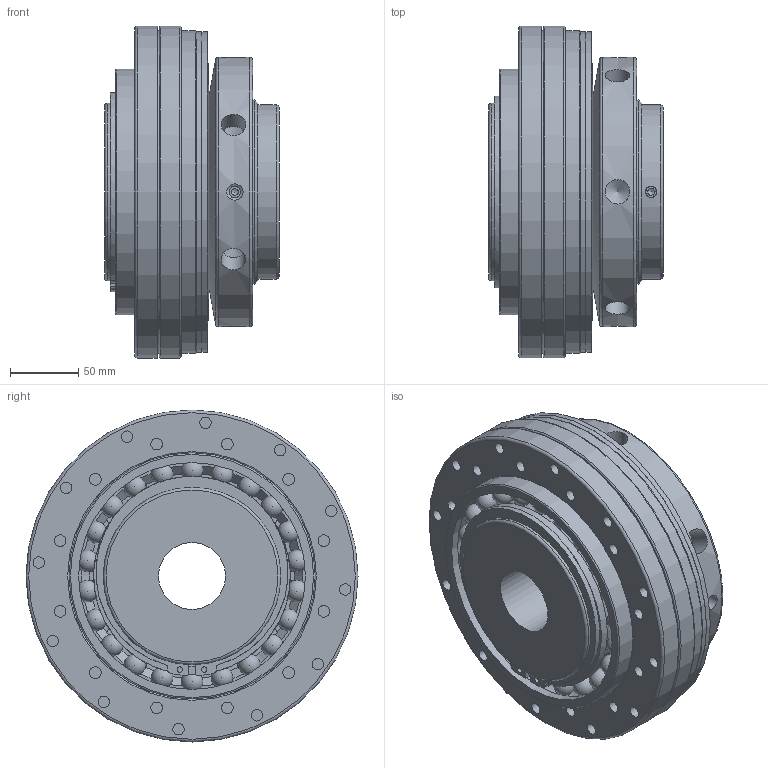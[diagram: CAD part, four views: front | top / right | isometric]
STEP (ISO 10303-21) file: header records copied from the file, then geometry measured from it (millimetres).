
FILE_DESCRIPTION(/* description */ ('Unknown'),/* implementation_level */ '2;1');
FILE_NAME(/* name */ 'SKW 6000',/* time_stamp */ '2018-01-30T13:39:19+01:00',/* author */ ('Unknown'),/* organization */ ('Unknown'),/* preprocessor_version */ 'ST-DEVELOPER v16.7',/* originating_system */ 'DEX',/* authorisation */ $);
FILE_SCHEMA (('AUTOMOTIVE_DESIGN {1 0 10303 214 3 1 1}'));
Length unit declared in the file: millimetre
Products named in the file (1): SKW 6000
Bounding box: 128 x 243 x 243 mm (x, y, z)
Volume: 3551628.5 mm3; surface area: 385413.6 mm2
Topology: 24 solids, 25 shells, 304 faces, 692 edges, 436 vertices
Faces by surface type: plane 127, cylinder 89, cone 46, sphere 22, torus 20
Full cylindrical faces by diameter (mm): 4 x2, 8 x12, 8.376 x16, 8.5 x14, 12 x2, 18 x6, 49 x1, 126 x1, 128 x1, 129.8 x1, 130 x2, 130.1 x1, 135 x2, 136 x1, 144 x2, 150 x1, 165 x1, 166 x2, 180 x2, 197 x1, 234.614 x2, 236 x2, 236.5 x2, 243 x2
Entity records: 7170 total; most frequent: CARTESIAN_POINT 1357, DIRECTION 1263, ORIENTED_EDGE 828, AXIS2_PLACEMENT_3D 568, FACE_BOUND 500, EDGE_LOOP 468, EDGE_CURVE 414, VERTEX_POINT 348
